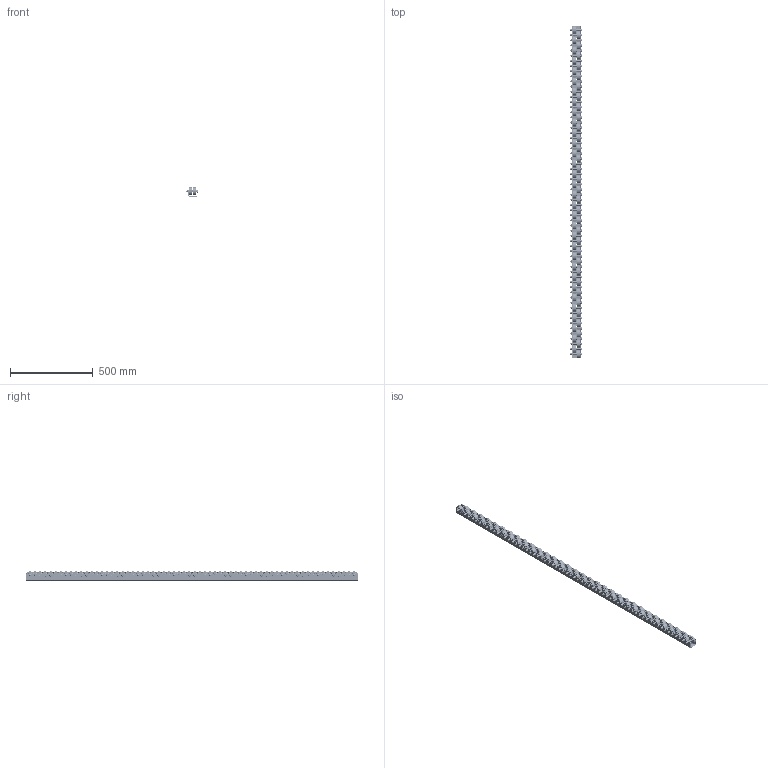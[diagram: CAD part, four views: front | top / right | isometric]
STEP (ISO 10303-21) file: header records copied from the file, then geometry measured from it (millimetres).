
FILE_DESCRIPTION( ( 'Unknown' ), '1' );
FILE_NAME( 'D:/Construktor/Listwy rolkowe 2015/Listwa T641/Listwa T641.stp', 'Unknown', ( 'Unknown' ), ( 'Unknown' ), 'PSStep 17.0.49', 'Unknown', ' ' );
FILE_SCHEMA( ( 'AUTOMOTIVE_DESIGN { 1 0 10303 214 1 1 1 1 }' ) );
Length unit declared in the file: millimetre
Products named in the file (6): Assem1; DIN_931_M8x35; Nut_DIN_980_M_M8_v10.50; Ceownik T646; Tulejka dystansowa; 620 rolka
Assembly tree (257 placements, depth 2):
  Assem1
    DIN_931_M8x35  x64
    Nut_DIN_980_M_M8_v10.50  x64
    Ceownik T646
    Tulejka dystansowa  x64
    620 rolka  x64
Bounding box: 70.3 x 2000.97 x 55.99 mm (x, y, z)
Volume: 1966923.7 mm3; surface area: 1375401.1 mm2
Topology: 257 solids, 257 shells, 5214 faces, 10724 edges, 6792 vertices
Faces by surface type: plane 2058, cylinder 1300, cone 960, torus 896
Full cylindrical faces by diameter (mm): 6.466 x64, 6.647 x64, 6.697 x64, 8 x128, 8.2 x144, 8.3 x128, 8.4 x64, 10.5 x64, 11.63 x64, 12.5 x64, 12.6 x128, 29.5 x128, 43.6 x128, 48 x64
Entity records: 11326 total; most frequent: DIRECTION 1756, CARTESIAN_POINT 1571, ORIENTED_EDGE 884, AXIS2_PLACEMENT_3D 855, EDGE_LOOP 722, EDGE_CURVE 442, FACE_OUTER_BOUND 413, VERTEX_POINT 406
